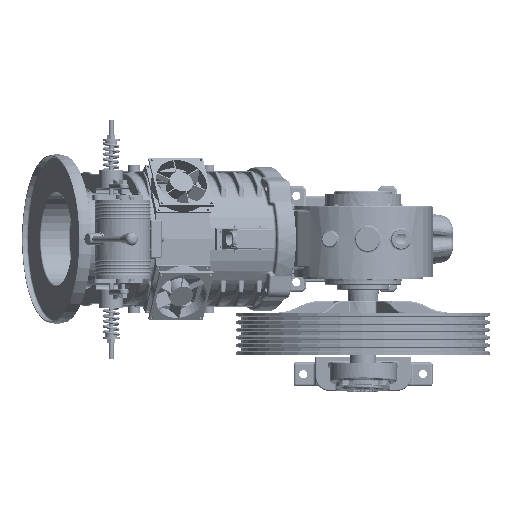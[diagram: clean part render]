
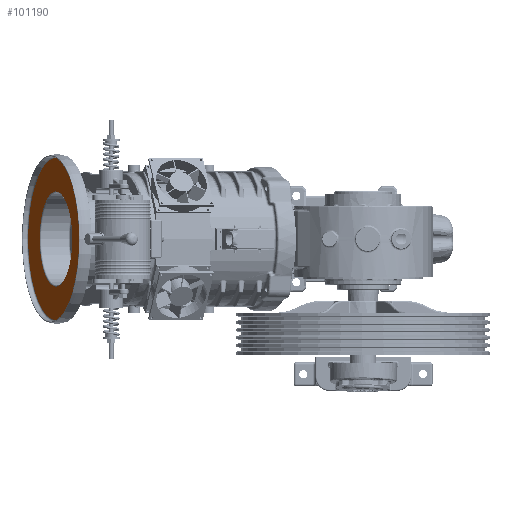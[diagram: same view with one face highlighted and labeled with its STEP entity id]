
A CAD part, left-side view. The second image highlights one B-rep face of the part: STEP entity #101190.
In plain terms, the highlighted planar face has unit normal (-0.342, 0.94, 0).
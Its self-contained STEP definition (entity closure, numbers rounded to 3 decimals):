
#2726 = EDGE_LOOP ( 'NONE', ( #236172, #28109 ) ) ;
#5520 = VERTEX_POINT ( 'NONE', #9199 ) ;
#9199 = CARTESIAN_POINT ( 'NONE',  ( -263.483, 479.943, 169.5 ) ) ;
#15185 = CARTESIAN_POINT ( 'NONE',  ( -263.483, 479.943, -169.5 ) ) ;
#26096 = CARTESIAN_POINT ( 'NONE',  ( -263.483, 479.943, 0. ) ) ;
#28109 = ORIENTED_EDGE ( 'NONE', *, *, #78461, .T. ) ;
#29818 = ORIENTED_EDGE ( 'NONE', *, *, #205825, .T. ) ;
#47733 = DIRECTION ( 'NONE',  ( -0.342, 0.94, 0. ) ) ;
#49964 = PLANE ( 'NONE',  #112024 ) ;
#71642 = VERTEX_POINT ( 'NONE', #15185 ) ;
#75484 = DIRECTION ( 'NONE',  ( 0., 0., -1. ) ) ;
#78461 = EDGE_CURVE ( 'NONE', #5520, #71642, #171408, .T. ) ;
#82681 = EDGE_CURVE ( 'NONE', #221272, #104348, #107125, .T. ) ;
#86907 = FACE_BOUND ( 'NONE', #89978, .T. ) ;
#89978 = EDGE_LOOP ( 'NONE', ( #135103, #29818 ) ) ;
#96635 = AXIS2_PLACEMENT_3D ( 'NONE', #141561, #219301, #177304 ) ;
#101190 = ADVANCED_FACE ( 'NONE', ( #86907, #106001 ), #49964, .F. ) ;
#104348 = VERTEX_POINT ( 'NONE', #233101 ) ;
#106001 = FACE_OUTER_BOUND ( 'NONE', #2726, .T. ) ;
#107125 = CIRCLE ( 'NONE', #143693, 99.5 ) ;
#112024 = AXIS2_PLACEMENT_3D ( 'NONE', #185001, #128899, #183745 ) ;
#121010 = CIRCLE ( 'NONE', #96635, 99.5 ) ;
#128899 = DIRECTION ( 'NONE',  ( 0.342, -0.94, 0. ) ) ;
#135103 = ORIENTED_EDGE ( 'NONE', *, *, #82681, .T. ) ;
#135336 = CARTESIAN_POINT ( 'NONE',  ( -263.483, 479.943, 0. ) ) ;
#141561 = CARTESIAN_POINT ( 'NONE',  ( -263.483, 479.943, 0. ) ) ;
#143693 = AXIS2_PLACEMENT_3D ( 'NONE', #135336, #213047, #75484 ) ;
#163166 = AXIS2_PLACEMENT_3D ( 'NONE', #232068, #173463, #193829 ) ;
#171408 = CIRCLE ( 'NONE', #163166, 169.5 ) ;
#173463 = DIRECTION ( 'NONE',  ( -0.342, 0.94, 0. ) ) ;
#177304 = DIRECTION ( 'NONE',  ( 0., 0., -1. ) ) ;
#183745 = DIRECTION ( 'NONE',  ( 0., 0., -1. ) ) ;
#185001 = CARTESIAN_POINT ( 'NONE',  ( -354.163, 446.938, 0. ) ) ;
#185214 = AXIS2_PLACEMENT_3D ( 'NONE', #26096, #47733, #223542 ) ;
#193829 = DIRECTION ( 'NONE',  ( 0., 0., -1. ) ) ;
#202930 = EDGE_CURVE ( 'NONE', #71642, #5520, #225778, .T. ) ;
#205825 = EDGE_CURVE ( 'NONE', #104348, #221272, #121010, .T. ) ;
#213047 = DIRECTION ( 'NONE',  ( 0.342, -0.94, 0. ) ) ;
#219301 = DIRECTION ( 'NONE',  ( 0.342, -0.94, 0. ) ) ;
#221272 = VERTEX_POINT ( 'NONE', #240683 ) ;
#223542 = DIRECTION ( 'NONE',  ( 0., 0., -1. ) ) ;
#225778 = CIRCLE ( 'NONE', #185214, 169.5 ) ;
#232068 = CARTESIAN_POINT ( 'NONE',  ( -263.483, 479.943, 0. ) ) ;
#233101 = CARTESIAN_POINT ( 'NONE',  ( -263.483, 479.943, 99.5 ) ) ;
#236172 = ORIENTED_EDGE ( 'NONE', *, *, #202930, .T. ) ;
#240683 = CARTESIAN_POINT ( 'NONE',  ( -263.483, 479.943, -99.5 ) ) ;
